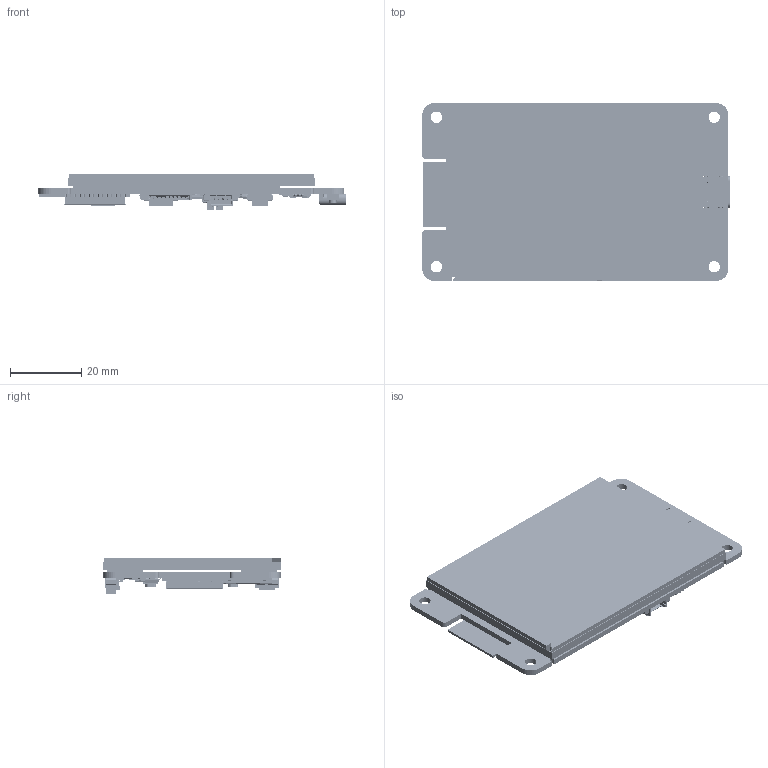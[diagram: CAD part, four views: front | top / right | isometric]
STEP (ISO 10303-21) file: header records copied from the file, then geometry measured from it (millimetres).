
FILE_DESCRIPTION(('Open CASCADE Model'),'2;1');
FILE_NAME('Open CASCADE Shape Model','2024-08-30T13:42:19',('Author'),( 'Open CASCADE'),'Open CASCADE STEP processor 6.8','Open CASCADE 6.8' ,'Unknown');
FILE_SCHEMA(('AUTOMOTIVE_DESIGN { 1 0 10303 214 1 1 1 1 }'));
Length unit declared in the file: millimetre
Products named in the file (305): PCB; Board; Open CASCADE STEP translator 6.8 1.1.1; Open CASCADE STEP translator 6.8 1.1.1.1; U2; ESP32-WROOM-32E_20210903; ESP32-WROOM-32E_20210903.STEP; PCB_ESP32-WROOM-32E_V1(2)^PCB_ESP32-WROOM-32E_V1.STEP; DesignRootModel^PCB_ESP32-WROOM-32E_V1(2)_PCB_ESP32-WROOM-32E_V1.STEP; Submodel-SLP48_5X5_part^DesignRootModel_PCB_ESP32-WROOM-32E_V1(2)_PCB_
ESP32-WROOM-32E_V1.STEP; ESP32_5x5_20210301.STEP^Submodel-SLP48_5X5_part_DesignRootModel_PCB_
ESP32-WROOM-32E_V1(2)_PCB_ESP32-WROOM-32E_V1.STEP; ESP32_5x5_20210301.STEP^ESP32_5x5_20210301.STEP_Submodel-SLP48_5X5_
part_DesignRootModel_PCB_ESP32-WROOM-32E_V1(2)_PCB_ESP32-WROOM-32E_
V1.STEP; Submodel-ANT_L_TYPEA_1501846164_part^DesignRootModel_PCB_
ESP32-WROOM-32E_V1(2)_PCB_ESP32-WROOM-32E_V1.STEP; trace_1^Submodel-ANT_L_TYPEA_1501846164_part_DesignRootModel_PCB_
ESP32-WROOM-32E_V1(2)_PCB_ESP32-WROOM-32E_V1.STEP; Submodel-SOD882_part^DesignRootModel_PCB_ESP32-WROOM-32E_V1(2)_PCB_
ESP32-WROOM-32E_V1.STEP; DFN1006.STEP^Submodel-SOD882_part_DesignRootModel_PCB_ESP32-WROOM-32E_
V1(2)_PCB_ESP32-WROOM-32E_V1.STEP; DFN1006.STEP^DFN1006.STEP_Submodel-SOD882_part_DesignRootModel_PCB_
ESP32-WROOM-32E_V1(2)_PCB_ESP32-WROOM-32E_V1.STEP; Submodel-R0201_part^DesignRootModel_PCB_ESP32-WROOM-32E_V1(2)_PCB_
ESP32-WROOM-32E_V1.STEP; R0201_20210301.STEP^Submodel-R0201_part_DesignRootModel_PCB_
ESP32-WROOM-32E_V1(2)_PCB_ESP32-WROOM-32E_V1.STEP; R0201_20210301.STEP^R0201_20210301.STEP_Submodel-R0201_part_
DesignRootModel_PCB_ESP32-WROOM-32E_V1(2)_PCB_ESP32-WROOM-32E_V1.STEP; Submodel-R0201_part^DesignRootModel_PCB_ESP32-WROOM-32E_V1(2)_PCB_
ESP32-WROOM-32E_V1-1.STEP; R0201_20210301.STEP^Submodel-R0201_part_DesignRootModel_PCB_
ESP32-WROOM-32E_V1(2)_PCB_ESP32-WROOM-32E_V1-1.STEP; Submodel-R0201_part^DesignRootModel_PCB_ESP32-WROOM-32E_V1(2)_PCB_
ESP32-WROOM-32E_V1-2.STEP; R0201_20210301.STEP^Submodel-R0201_part_DesignRootModel_PCB_
ESP32-WROOM-32E_V1(2)_PCB_ESP32-WROOM-32E_V1-2.STEP; Submodel-L0201_part^DesignRootModel_PCB_ESP32-WROOM-32E_V1(2)_PCB_
ESP32-WROOM-32E_V1.STEP; L0201_20210301.STEP^Submodel-L0201_part_DesignRootModel_PCB_
ESP32-WROOM-32E_V1(2)_PCB_ESP32-WROOM-32E_V1.STEP; L0201_20210301.STEP^L0201_20210301.STEP_Submodel-L0201_part_
DesignRootModel_PCB_ESP32-WROOM-32E_V1(2)_PCB_ESP32-WROOM-32E_V1.STEP; Submodel-L0201_part^DesignRootModel_PCB_ESP32-WROOM-32E_V1(2)_PCB_
ESP32-WROOM-32E_V1-1.STEP; L0201_20210301.STEP^Submodel-L0201_part_DesignRootModel_PCB_
ESP32-WROOM-32E_V1(2)_PCB_ESP32-WROOM-32E_V1-1.STEP; Submodel-C0201_part^DesignRootModel_PCB_ESP32-WROOM-32E_V1(2)_PCB_
ESP32-WROOM-32E_V1.STEP; C0201_20210301.STEP^Submodel-C0201_part_DesignRootModel_PCB_
ESP32-WROOM-32E_V1(2)_PCB_ESP32-WROOM-32E_V1.STEP; C0201_20210301.STEP^C0201_20210301.STEP_Submodel-C0201_part_
DesignRootModel_PCB_ESP32-WROOM-32E_V1(2)_PCB_ESP32-WROOM-32E_V1.STEP; Submodel-C0201_part^DesignRootModel_PCB_ESP32-WROOM-32E_V1(2)_PCB_
ESP32-WROOM-32E_V1-1.STEP; C0201_20210301.STEP^Submodel-C0201_part_DesignRootModel_PCB_
ESP32-WROOM-32E_V1(2)_PCB_ESP32-WROOM-32E_V1-1.STEP; Submodel-C0201_part^DesignRootModel_PCB_ESP32-WROOM-32E_V1(2)_PCB_
ESP32-WROOM-32E_V1-2.STEP; C0201_20210301.STEP^Submodel-C0201_part_DesignRootModel_PCB_
ESP32-WROOM-32E_V1(2)_PCB_ESP32-WROOM-32E_V1-2.STEP; Submodel-C0201_part^DesignRootModel_PCB_ESP32-WROOM-32E_V1(2)_PCB_
ESP32-WROOM-32E_V1-3.STEP; C0201_20210301.STEP^Submodel-C0201_part_DesignRootModel_PCB_
ESP32-WROOM-32E_V1(2)_PCB_ESP32-WROOM-32E_V1-3.STEP; Submodel-C0201_part^DesignRootModel_PCB_ESP32-WROOM-32E_V1(2)_PCB_
ESP32-WROOM-32E_V1-4.STEP; C0201_20210301.STEP^Submodel-C0201_part_DesignRootModel_PCB_
ESP32-WROOM-32E_V1(2)_PCB_ESP32-WROOM-32E_V1-4.STEP ...
Assembly tree (424 placements, depth 9):
  PCB
    Board
      Open CASCADE STEP translator 6.8 1.1.1
        Open CASCADE STEP translator 6.8 1.1.1.1
    U2
      ESP32-WROOM-32E_20210903
        ESP32-WROOM-32E_20210903.STEP
          PCB_ESP32-WROOM-32E_V1(2)^PCB_ESP32-WROOM-32E_V1.STEP
            DesignRootModel^PCB_ESP32-WROOM-32E_V1(2)_PCB_ESP32-WROOM-32E_V1.STEP
              Submodel-SLP48_5X5_part^DesignRootModel_PCB_ESP32-WROOM-32E_V1(2)_PCB_
ESP32-WROOM-32E_V1.STEP
                ESP32_5x5_20210301.STEP^Submodel-SLP48_5X5_part_DesignRootModel_PCB_
ESP32-WROOM-32E_V1(2)_PCB_ESP32-WROOM-32E_V1.STEP
                  ESP32_5x5_20210301.STEP^ESP32_5x5_20210301.STEP_Submodel-SLP48_5X5_
part_DesignRootModel_PCB_ESP32-WROOM-32E_V1(2)_PCB_ESP32-WROOM-32E_
V1.STEP
              Submodel-ANT_L_TYPEA_1501846164_part^DesignRootModel_PCB_
ESP32-WROOM-32E_V1(2)_PCB_ESP32-WROOM-32E_V1.STEP
                trace_1^Submodel-ANT_L_TYPEA_1501846164_part_DesignRootModel_PCB_
ESP32-WROOM-32E_V1(2)_PCB_ESP32-WROOM-32E_V1.STEP
              Submodel-SOD882_part^DesignRootModel_PCB_ESP32-WROOM-32E_V1(2)_PCB_
ESP32-WROOM-32E_V1.STEP
                DFN1006.STEP^Submodel-SOD882_part_DesignRootModel_PCB_ESP32-WROOM-32E_
V1(2)_PCB_ESP32-WROOM-32E_V1.STEP
                  DFN1006.STEP^DFN1006.STEP_Submodel-SOD882_part_DesignRootModel_PCB_
ESP32-WROOM-32E_V1(2)_PCB_ESP32-WROOM-32E_V1.STEP
              Submodel-R0201_part^DesignRootModel_PCB_ESP32-WROOM-32E_V1(2)_PCB_
ESP32-WROOM-32E_V1.STEP
                R0201_20210301.STEP^Submodel-R0201_part_DesignRootModel_PCB_
ESP32-WROOM-32E_V1(2)_PCB_ESP32-WROOM-32E_V1.STEP
                  R0201_20210301.STEP^R0201_20210301.STEP_Submodel-R0201_part_
DesignRootModel_PCB_ESP32-WROOM-32E_V1(2)_PCB_ESP32-WROOM-32E_V1.STEP
              Submodel-R0201_part^DesignRootModel_PCB_ESP32-WROOM-32E_V1(2)_PCB_
ESP32-WROOM-32E_V1-1.STEP
                R0201_20210301.STEP^Submodel-R0201_part_DesignRootModel_PCB_
ESP32-WROOM-32E_V1(2)_PCB_ESP32-WROOM-32E_V1-1.STEP
                  R0201_20210301.STEP^R0201_20210301.STEP_Submodel-R0201_part_
DesignRootModel_PCB_ESP32-WROOM-32E_V1(2)_PCB_ESP32-WROOM-32E_V1.STEP
              Submodel-R0201_part^DesignRootModel_PCB_ESP32-WROOM-32E_V1(2)_PCB_
ESP32-WROOM-32E_V1-2.STEP
                R0201_20210301.STEP^Submodel-R0201_part_DesignRootModel_PCB_
ESP32-WROOM-32E_V1(2)_PCB_ESP32-WROOM-32E_V1-2.STEP
                  R0201_20210301.STEP^R0201_20210301.STEP_Submodel-R0201_part_
DesignRootModel_PCB_ESP32-WROOM-32E_V1(2)_PCB_ESP32-WROOM-32E_V1.STEP
              Submodel-L0201_part^DesignRootModel_PCB_ESP32-WROOM-32E_V1(2)_PCB_
ESP32-WROOM-32E_V1.STEP
                L0201_20210301.STEP^Submodel-L0201_part_DesignRootModel_PCB_
ESP32-WROOM-32E_V1(2)_PCB_ESP32-WROOM-32E_V1.STEP
                  L0201_20210301.STEP^L0201_20210301.STEP_Submodel-L0201_part_
DesignRootModel_PCB_ESP32-WROOM-32E_V1(2)_PCB_ESP32-WROOM-32E_V1.STEP
              Submodel-L0201_part^DesignRootModel_PCB_ESP32-WROOM-32E_V1(2)_PCB_
ESP32-WROOM-32E_V1-1.STEP
                L0201_20210301.STEP^Submodel-L0201_part_DesignRootModel_PCB_
ESP32-WROOM-32E_V1(2)_PCB_ESP32-WROOM-32E_V1-1.STEP
                  L0201_20210301.STEP^L0201_20210301.STEP_Submodel-L0201_part_
DesignRootModel_PCB_ESP32-WROOM-32E_V1(2)_PCB_ESP32-WROOM-32E_V1.STEP
              Submodel-C0201_part^DesignRootModel_PCB_ESP32-WROOM-32E_V1(2)_PCB_
ESP32-WROOM-32E_V1.STEP
                C0201_20210301.STEP^Submodel-C0201_part_DesignRootModel_PCB_
ESP32-WROOM-32E_V1(2)_PCB_ESP32-WROOM-32E_V1.STEP
                  C0201_20210301.STEP^C0201_20210301.STEP_Submodel-C0201_part_
DesignRootModel_PCB_ESP32-WROOM-32E_V1(2)_PCB_ESP32-WROOM-32E_V1.STEP
              Submodel-C0201_part^DesignRootModel_PCB_ESP32-WROOM-32E_V1(2)_PCB_
ESP32-WROOM-32E_V1-1.STEP
                C0201_20210301.STEP^Submodel-C0201_part_DesignRootModel_PCB_
ESP32-WROOM-32E_V1(2)_PCB_ESP32-WROOM-32E_V1-1.STEP
                  C0201_20210301.STEP^C0201_20210301.STEP_Submodel-C0201_part_
DesignRootModel_PCB_ESP32-WROOM-32E_V1(2)_PCB_ESP32-WROOM-32E_V1.STEP
              Submodel-C0201_part^DesignRootModel_PCB_ESP32-WROOM-32E_V1(2)_PCB_
ESP32-WROOM-32E_V1-2.STEP
                C0201_20210301.STEP^Submodel-C0201_part_DesignRootModel_PCB_
ESP32-WROOM-32E_V1(2)_PCB_ESP32-WROOM-32E_V1-2.STEP
                  C0201_20210301.STEP^C0201_20210301.STEP_Submodel-C0201_part_
DesignRootModel_PCB_ESP32-WROOM-32E_V1(2)_PCB_ESP32-WROOM-32E_V1.STEP
              Submodel-C0201_part^DesignRootModel_PCB_ESP32-WROOM-32E_V1(2)_PCB_
ESP32-WROOM-32E_V1-3.STEP
                C0201_20210301.STEP^Submodel-C0201_part_DesignRootModel_PCB_
ESP32-WROOM-32E_V1(2)_PCB_ESP32-WROOM-32E_V1-3.STEP
                  C0201_20210301.STEP^C0201_20210301.STEP_Submodel-C0201_part_
DesignRootModel_PCB_ESP32-WROOM-32E_V1(2)_PCB_ESP32-WROOM-32E_V1.STEP
              Submodel-C0201_part^DesignRootModel_PCB_ESP32-WROOM-32E_V1(2)_PCB_
ESP32-WROOM-32E_V1-4.STEP
                C0201_20210301.STEP^Submodel-C0201_part_DesignRootModel_PCB_
ESP32-WROOM-32E_V1(2)_PCB_ESP32-WROOM-32E_V1-4.STEP
                  C0201_20210301.STEP^C0201_20210301.STEP_Submodel-C0201_part_
DesignRootModel_PCB_ESP32-WROOM-32E_V1(2)_PCB_ESP32-WROOM-32E_V1.STEP
              Submodel-C0201_part^DesignRootModel_PCB_ESP32-WROOM-32E_V1(2)_PCB_
ESP32-WROOM-32E_V1-5.STEP
                C0201_20210301.STEP^Submodel-C0201_part_DesignRootModel_PCB_
ESP32-WROOM-32E_V1(2)_PCB_ESP32-WROOM-32E_V1-5.STEP
                  C0201_20210301.STEP^C0201_20210301.STEP_Submodel-C0201_part_
DesignRootModel_PCB_ESP32-WROOM-32E_V1(2)_PCB_ESP32-WROOM-32E_V1.STEP
              Submodel-C0201_part^DesignRootModel_PCB_ESP32-WROOM-32E_V1(2)_PCB_
ESP32-WROOM-32E_V1-6.STEP
                C0201_20210301.STEP^Submodel-C0201_part_DesignRootModel_PCB_
ESP32-WROOM-32E_V1(2)_PCB_ESP32-WROOM-32E_V1-6.STEP
                  C0201_20210301.STEP^C0201_20210301.STEP_Submodel-C0201_part_
DesignRootModel_PCB_ESP32-WROOM-32E_V1(2)_PCB_ESP32-WROOM-32E_V1.STEP
              Submodel-C0201_part^DesignRootModel_PCB_ESP32-WROOM-32E_V1(2)_PCB_
ESP32-WROOM-32E_V1-7.STEP
                C0201_20210301.STEP^Submodel-C0201_part_DesignRootModel_PCB_
ESP32-WROOM-32E_V1(2)_PCB_ESP32-WROOM-32E_V1-7.STEP
                  C0201_20210301.STEP^C0201_20210301.STEP_Submodel-C0201_part_
DesignRootModel_PCB_ESP32-WROOM-32E_V1(2)_PCB_ESP32-WROOM-32E_V1.STEP
              Submodel-C0201_part^DesignRootModel_PCB_ESP32-WROOM-32E_V1(2)_PCB_
ESP32-WROOM-32E_V1-8.STEP
                C0201_20210301.STEP^Submodel-C0201_part_DesignRootModel_PCB_
ESP32-WROOM-32E_V1(2)_PCB_ESP32-WROOM-32E_V1-8.STEP
                  C0201_20210301.STEP^C0201_20210301.STEP_Submodel-C0201_part_
DesignRootModel_PCB_ESP32-WROOM-32E_V1(2)_PCB_ESP32-WROOM-32E_V1.STEP
              Submodel-C0201_part^DesignRootModel_PCB_ESP32-WROOM-32E_V1(2)_PCB_
ESP32-WROOM-32E_V1-9.STEP
Bounding box: 86.37 x 50 x 10.3 mm (x, y, z)
Volume: 14632.3 mm3; surface area: 28003.4 mm2
Topology: 787 solids, 1704 shells, 16689 faces, 44255 edges, 30178 vertices
Faces by surface type: plane 9694, bspline 3730, cylinder 2873, sphere 378, torus 7, cone 7
Full cylindrical faces by diameter (mm): 1 x2, 3.2 x4
Entity records: 294770 total; most frequent: CARTESIAN_POINT 91391, ORIENTED_EDGE 34332, DIRECTION 32721, EDGE_CURVE 19717, LINE 14871, VECTOR 14871, VERTEX_POINT 14553, AXIS2_PLACEMENT_3D 8925
